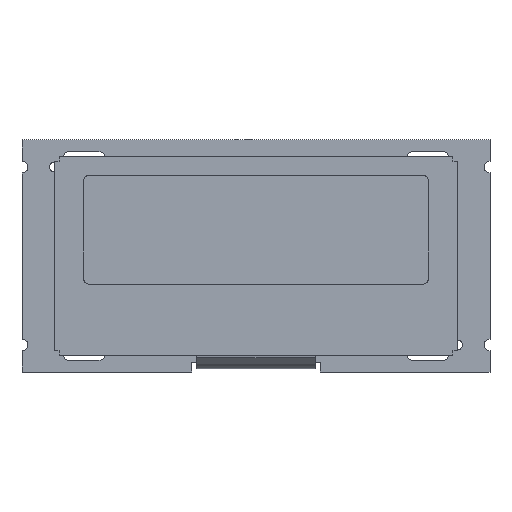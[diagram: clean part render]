
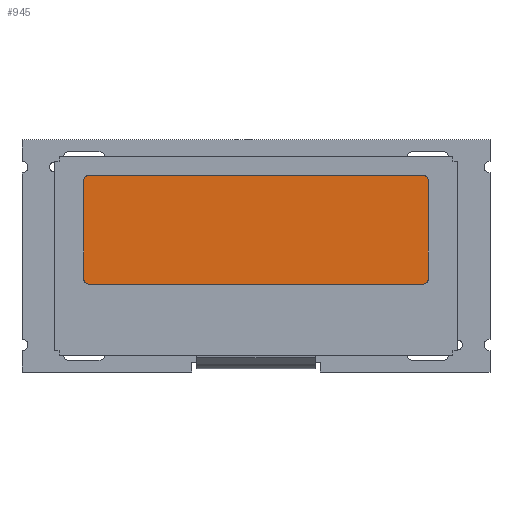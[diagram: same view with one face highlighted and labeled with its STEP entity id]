
A CAD part, top view. The second image highlights one B-rep face of the part: STEP entity #945.
In plain terms, the highlighted planar face has unit normal (0, 0, 1).
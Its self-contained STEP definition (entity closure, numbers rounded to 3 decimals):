
#127 = VERTEX_POINT ( 'NONE', #7749 ) ;
#463 = PLANE ( 'NONE',  #4041 ) ;
#652 = AXIS2_PLACEMENT_3D ( 'NONE', #6158, #3102, #2384 ) ;
#945 = ADVANCED_FACE ( 'NONE', ( #7996 ), #463, .F. ) ;
#997 = VERTEX_POINT ( 'NONE', #3316 ) ;
#1199 = CARTESIAN_POINT ( 'NONE',  ( 17.61, -2.95, 2.7 ) ) ;
#1252 = EDGE_CURVE ( 'NONE', #997, #6754, #3634, .T. ) ;
#1270 = EDGE_CURVE ( 'NONE', #4388, #2094, #5405, .T. ) ;
#1306 = DIRECTION ( 'NONE',  ( 0., 0., 1. ) ) ;
#1831 = DIRECTION ( 'NONE',  ( 1., 0., 0. ) ) ;
#2094 = VERTEX_POINT ( 'NONE', #2700 ) ;
#2280 = DIRECTION ( 'NONE',  ( -1., 0., 0. ) ) ;
#2346 = EDGE_CURVE ( 'NONE', #6109, #3953, #3390, .T. ) ;
#2383 = CARTESIAN_POINT ( 'NONE',  ( -17.61, -2.95, 2.7 ) ) ;
#2384 = DIRECTION ( 'NONE',  ( -1., 0., 0. ) ) ;
#2614 = CARTESIAN_POINT ( 'NONE',  ( 17.61, 8.45, 2.7 ) ) ;
#2683 = CARTESIAN_POINT ( 'NONE',  ( 18.11, 7.95, 2.7 ) ) ;
#2699 = CARTESIAN_POINT ( 'NONE',  ( -18.11, -2.45, 2.7 ) ) ;
#2700 = CARTESIAN_POINT ( 'NONE',  ( 18.11, -2.45, 2.7 ) ) ;
#2701 = EDGE_CURVE ( 'NONE', #127, #4324, #6378, .T. ) ;
#2806 = AXIS2_PLACEMENT_3D ( 'NONE', #3335, #7924, #3989 ) ;
#3102 = DIRECTION ( 'NONE',  ( 0., 0., 1. ) ) ;
#3224 = ORIENTED_EDGE ( 'NONE', *, *, #7266, .T. ) ;
#3248 = EDGE_CURVE ( 'NONE', #6754, #6109, #7201, .T. ) ;
#3316 = CARTESIAN_POINT ( 'NONE',  ( 18.11, 7.95, 2.7 ) ) ;
#3335 = CARTESIAN_POINT ( 'NONE',  ( -17.61, -2.45, 2.7 ) ) ;
#3390 = CIRCLE ( 'NONE', #4896, 0.5 ) ;
#3613 = DIRECTION ( 'NONE',  ( 0., 0., 1. ) ) ;
#3634 = CIRCLE ( 'NONE', #8245, 0.5 ) ;
#3714 = ORIENTED_EDGE ( 'NONE', *, *, #3248, .T. ) ;
#3953 = VERTEX_POINT ( 'NONE', #6500 ) ;
#3989 = DIRECTION ( 'NONE',  ( -1., 0., 0. ) ) ;
#4041 = AXIS2_PLACEMENT_3D ( 'NONE', #4408, #5024, #2280 ) ;
#4284 = VECTOR ( 'NONE', #7970, 1000. ) ;
#4291 = ORIENTED_EDGE ( 'NONE', *, *, #7499, .T. ) ;
#4324 = VERTEX_POINT ( 'NONE', #2383 ) ;
#4388 = VERTEX_POINT ( 'NONE', #7710 ) ;
#4395 = DIRECTION ( 'NONE',  ( -1., 0., 0. ) ) ;
#4408 = CARTESIAN_POINT ( 'NONE',  ( 17.61, 7.95, 2.7 ) ) ;
#4769 = VECTOR ( 'NONE', #7246, 1000. ) ;
#4896 = AXIS2_PLACEMENT_3D ( 'NONE', #5209, #1306, #5857 ) ;
#4928 = VECTOR ( 'NONE', #1831, 1000. ) ;
#4970 = LINE ( 'NONE', #2683, #4769 ) ;
#5022 = ORIENTED_EDGE ( 'NONE', *, *, #2346, .T. ) ;
#5024 = DIRECTION ( 'NONE',  ( 0., 0., -1. ) ) ;
#5135 = LINE ( 'NONE', #1199, #4928 ) ;
#5209 = CARTESIAN_POINT ( 'NONE',  ( -17.61, 7.95, 2.7 ) ) ;
#5405 = CIRCLE ( 'NONE', #652, 0.5 ) ;
#5462 = VECTOR ( 'NONE', #4395, 1000. ) ;
#5857 = DIRECTION ( 'NONE',  ( -1., 0., 0. ) ) ;
#6109 = VERTEX_POINT ( 'NONE', #7250 ) ;
#6158 = CARTESIAN_POINT ( 'NONE',  ( 17.61, -2.45, 2.7 ) ) ;
#6252 = EDGE_LOOP ( 'NONE', ( #7968, #3714, #5022, #4291, #8448, #3224, #7778, #6461 ) ) ;
#6300 = EDGE_CURVE ( 'NONE', #2094, #997, #4970, .T. ) ;
#6378 = CIRCLE ( 'NONE', #2806, 0.5 ) ;
#6461 = ORIENTED_EDGE ( 'NONE', *, *, #6300, .T. ) ;
#6500 = CARTESIAN_POINT ( 'NONE',  ( -18.11, 7.95, 2.7 ) ) ;
#6754 = VERTEX_POINT ( 'NONE', #2614 ) ;
#7201 = LINE ( 'NONE', #8314, #5462 ) ;
#7246 = DIRECTION ( 'NONE',  ( 0., 1., 0. ) ) ;
#7250 = CARTESIAN_POINT ( 'NONE',  ( -17.61, 8.45, 2.7 ) ) ;
#7266 = EDGE_CURVE ( 'NONE', #4324, #4388, #5135, .T. ) ;
#7467 = CARTESIAN_POINT ( 'NONE',  ( 17.61, 7.95, 2.7 ) ) ;
#7499 = EDGE_CURVE ( 'NONE', #3953, #127, #7767, .T. ) ;
#7622 = DIRECTION ( 'NONE',  ( -1., 0., 0. ) ) ;
#7710 = CARTESIAN_POINT ( 'NONE',  ( 17.61, -2.95, 2.7 ) ) ;
#7749 = CARTESIAN_POINT ( 'NONE',  ( -18.11, -2.45, 2.7 ) ) ;
#7767 = LINE ( 'NONE', #2699, #4284 ) ;
#7778 = ORIENTED_EDGE ( 'NONE', *, *, #1270, .T. ) ;
#7924 = DIRECTION ( 'NONE',  ( 0., 0., 1. ) ) ;
#7968 = ORIENTED_EDGE ( 'NONE', *, *, #1252, .T. ) ;
#7970 = DIRECTION ( 'NONE',  ( 0., -1., 0. ) ) ;
#7996 = FACE_OUTER_BOUND ( 'NONE', #6252, .T. ) ;
#8245 = AXIS2_PLACEMENT_3D ( 'NONE', #7467, #3613, #7622 ) ;
#8314 = CARTESIAN_POINT ( 'NONE',  ( -17.61, 8.45, 2.7 ) ) ;
#8448 = ORIENTED_EDGE ( 'NONE', *, *, #2701, .T. ) ;
